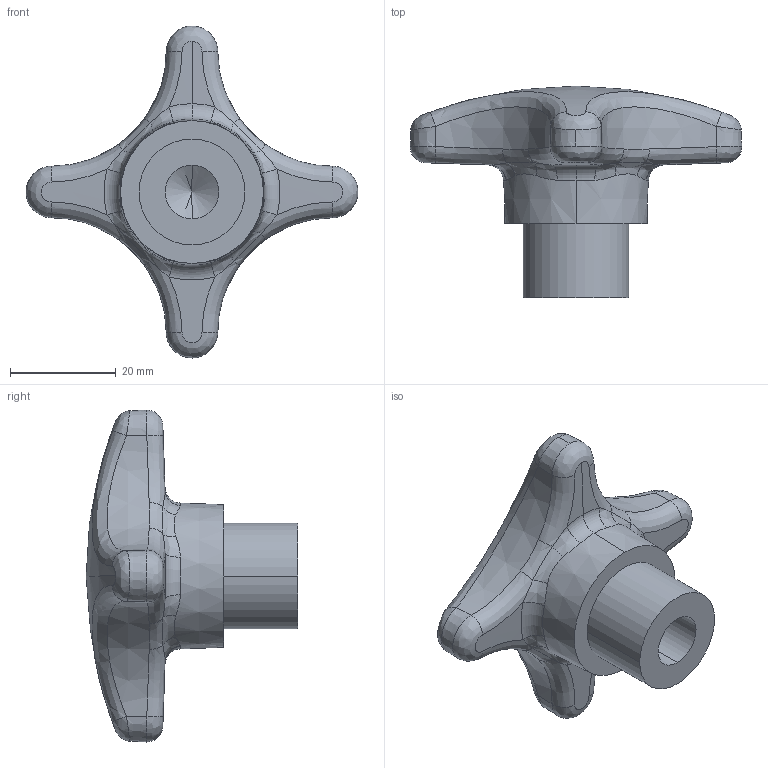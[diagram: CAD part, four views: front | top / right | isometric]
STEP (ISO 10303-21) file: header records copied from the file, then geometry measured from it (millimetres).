
FILE_DESCRIPTION (( 'STEP AP214' ), '1' );
FILE_NAME ('6335.2-63-M12-E-NI.step', '2022-11-14T08:41:35', ( '' ), ( '' ), 'SwSTEP 2.0', 'SolidWorks 2022', '' );
FILE_SCHEMA (( 'AUTOMOTIVE_DESIGN' ));
Length unit declared in the file: millimetre
Products named in the file (1): 6335.2-63-M12-E-NI
Bounding box: 62.74 x 40 x 62.75 mm (x, y, z)
Volume: 27285.4 mm3; surface area: 7288 mm2
Topology: 1 solids, 1 shells, 68 faces, 160 edges, 94 vertices
Faces by surface type: bspline 36, cone 19, torus 5, cylinder 4, sphere 2, plane 2
Entity records: 4837 total; most frequent: CARTESIAN_POINT 3416, ORIENTED_EDGE 316, DIRECTION 213, EDGE_CURVE 158, AXIS2_PLACEMENT_3D 97, VERTEX_POINT 94, B_SPLINE_CURVE_WITH_KNOTS 75, EDGE_LOOP 70
